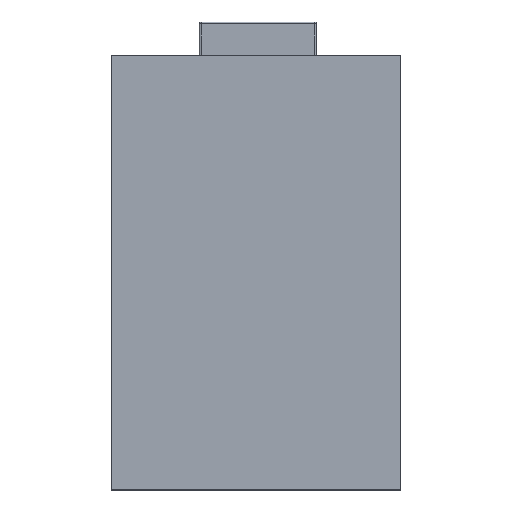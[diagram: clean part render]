
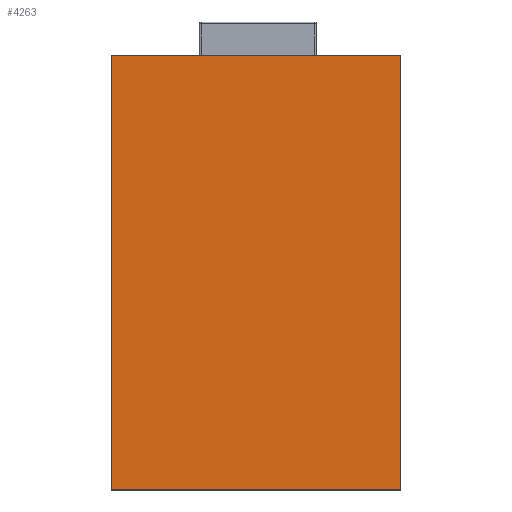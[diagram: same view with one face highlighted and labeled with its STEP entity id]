
A CAD part, top view. The second image highlights one B-rep face of the part: STEP entity #4263.
In plain terms, the highlighted planar face has unit normal (0, 0, 1).
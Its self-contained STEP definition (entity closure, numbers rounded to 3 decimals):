
#12 = VERTEX_POINT ( 'NONE', #2239 ) ;
#368 = ORIENTED_EDGE ( 'NONE', *, *, #982, .F. ) ;
#483 = DIRECTION ( 'NONE',  ( 1., 0., 0. ) ) ;
#499 = LINE ( 'NONE', #1893, #2904 ) ;
#571 = CARTESIAN_POINT ( 'NONE',  ( 110., 110., 0. ) ) ;
#925 = VERTEX_POINT ( 'NONE', #3799 ) ;
#939 = CARTESIAN_POINT ( 'NONE',  ( 0., 0., 0. ) ) ;
#982 = EDGE_CURVE ( 'NONE', #12, #925, #2928, .T. ) ;
#1020 = ORIENTED_EDGE ( 'NONE', *, *, #3001, .F. ) ;
#1194 = LINE ( 'NONE', #4268, #1567 ) ;
#1531 = CARTESIAN_POINT ( 'NONE',  ( 110., -54.989, 0. ) ) ;
#1539 = CARTESIAN_POINT ( 'NONE',  ( 0., -54.989, 0. ) ) ;
#1567 = VECTOR ( 'NONE', #2574, 1000. ) ;
#1680 = VECTOR ( 'NONE', #1787, 1000. ) ;
#1769 = AXIS2_PLACEMENT_3D ( 'NONE', #939, #2632, #483 ) ;
#1787 = DIRECTION ( 'NONE',  ( 0., 1., 0. ) ) ;
#1863 = DIRECTION ( 'NONE',  ( -1., 0., 0. ) ) ;
#1890 = EDGE_LOOP ( 'NONE', ( #368, #1020, #2942, #4067 ) ) ;
#1893 = CARTESIAN_POINT ( 'NONE',  ( 0., -54.989, 0. ) ) ;
#2122 = LINE ( 'NONE', #3875, #1680 ) ;
#2225 = DIRECTION ( 'NONE',  ( 1., 0., 0. ) ) ;
#2239 = CARTESIAN_POINT ( 'NONE',  ( 0., 110., 0. ) ) ;
#2351 = EDGE_CURVE ( 'NONE', #925, #4283, #1194, .T. ) ;
#2481 = VECTOR ( 'NONE', #2225, 1000. ) ;
#2574 = DIRECTION ( 'NONE',  ( 0., -1., 0. ) ) ;
#2632 = DIRECTION ( 'NONE',  ( 0., 0., 1. ) ) ;
#2904 = VECTOR ( 'NONE', #1863, 1000. ) ;
#2928 = LINE ( 'NONE', #571, #2481 ) ;
#2942 = ORIENTED_EDGE ( 'NONE', *, *, #3832, .F. ) ;
#2994 = FACE_OUTER_BOUND ( 'NONE', #1890, .T. ) ;
#3001 = EDGE_CURVE ( 'NONE', #3081, #12, #2122, .T. ) ;
#3081 = VERTEX_POINT ( 'NONE', #1539 ) ;
#3799 = CARTESIAN_POINT ( 'NONE',  ( 110., 110., 0. ) ) ;
#3832 = EDGE_CURVE ( 'NONE', #4283, #3081, #499, .T. ) ;
#3875 = CARTESIAN_POINT ( 'NONE',  ( 0., 110., 0. ) ) ;
#4036 = PLANE ( 'NONE',  #1769 ) ;
#4067 = ORIENTED_EDGE ( 'NONE', *, *, #2351, .F. ) ;
#4263 = ADVANCED_FACE ( 'NONE', ( #2994 ), #4036, .T. ) ;
#4268 = CARTESIAN_POINT ( 'NONE',  ( 110., 0., 0. ) ) ;
#4283 = VERTEX_POINT ( 'NONE', #1531 ) ;
